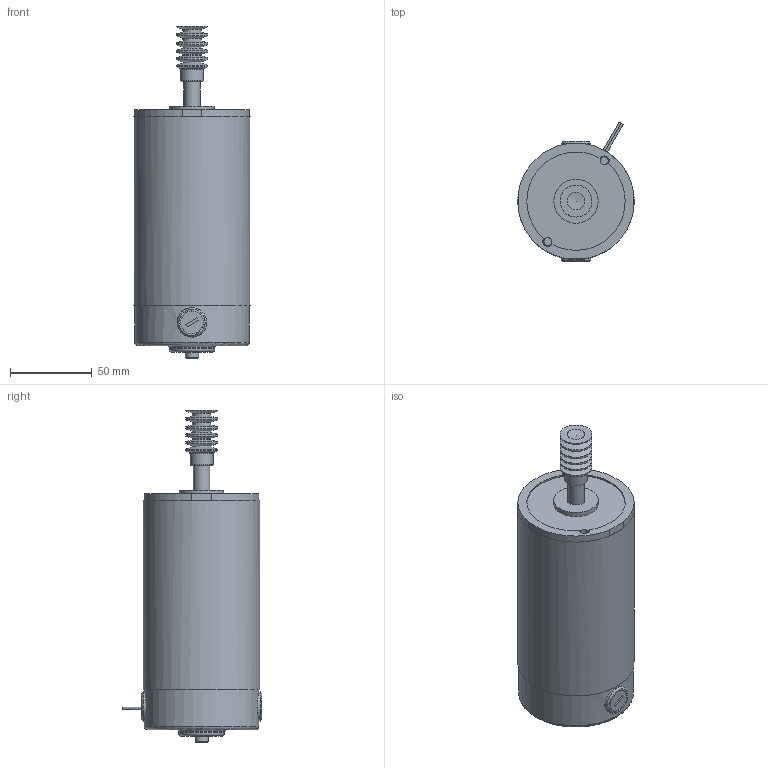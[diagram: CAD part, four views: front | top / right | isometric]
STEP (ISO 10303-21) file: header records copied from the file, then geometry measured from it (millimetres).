
FILE_DESCRIPTION((''),'2;1');
FILE_NAME('D:\yang\Yang cw\SPG 업무\2. DC MOTOR\7. DC MOTOR 브로슈어\AUTOMATIC DOOR DC MOTOR\3D\STEP\S7D90-90S(OA14).stp','2015-03-09T16:45:52',('ycw1227'),(''),'Autodesk Inventor 2013','Autodesk Inventor 2013','');
FILE_SCHEMA(('AUTOMOTIVE_DESIGN { 1 0 10303 214 1 1 1 1 }'));
Length unit declared in the file: millimetre
Products named in the file (1): 부품5
Bounding box: 70.98 x 85.08 x 202.5 mm (x, y, z)
Volume: 575627.4 mm3; surface area: 46502.5 mm2
Topology: 1 solids, 2 shells, 142 faces, 293 edges, 177 vertices
Faces by surface type: cylinder 57, plane 46, cone 26, bspline 7, torus 6
Full cylindrical faces by diameter (mm): 1.141 x1, 1.5 x2, 2.459 x6, 3.242 x1, 4.134 x2, 4.2 x2, 4.917 x2, 8 x1, 8.2 x2, 9 x1, 10 x1, 11 x1, 11.25 x5, 13.8 x2, 14 x3, 18 x2, 19.5 x6, 27 x1, 28 x1, 70 x1, 71 x1
Entity records: 3602 total; most frequent: CARTESIAN_POINT 882, DIRECTION 582, ORIENTED_EDGE 406, AXIS2_PLACEMENT_3D 265, EDGE_LOOP 237, EDGE_CURVE 203, VERTEX_POINT 159, FACE_OUTER_BOUND 142
